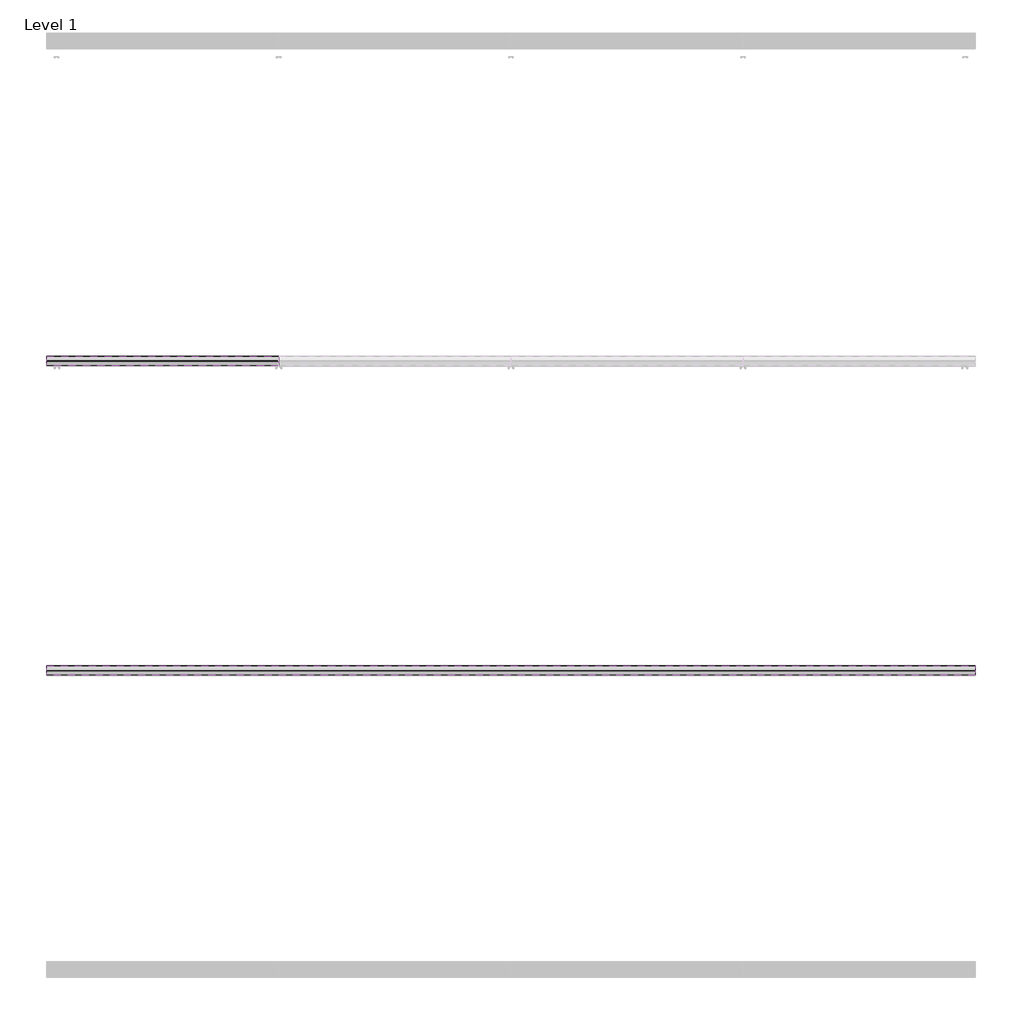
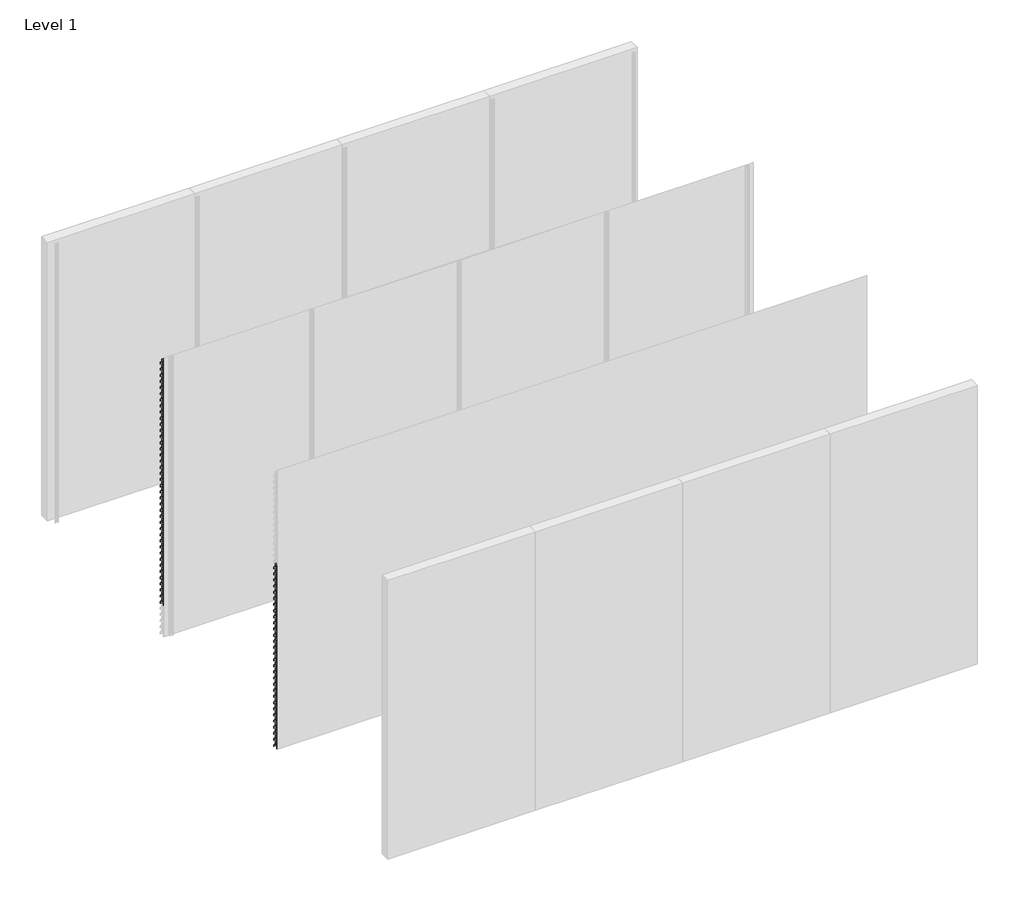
# One storey, part 29 of 35: 70 proxies.
"""IFC4 building model written with IfcOpenShell, lengths in millimetres."""

from ifc_helpers import new_model, si_unit, frame, origin, place, context, project, spatial, polyline, outline, extrude, element, save

model = new_model("IFC4")

# Units and contexts
model_context = context("Model", 3, world=origin())
ifc_project = project(units=[si_unit("LENGTHUNIT", "METRE", prefix="MILLI")], contexts=[model_context])

# Site, building, storey
site = spatial("IfcSite", under=ifc_project)
building = spatial("IfcBuilding", under=site)
storey = spatial("IfcBuildingStorey", under=building, Name="Level 1", Elevation=0.0)

# Proxies
placement = place(None, origin())
element("IfcBuildingElementProxy", 1, Name="Wall Sweeps", at=placement, inside=storey, context=model_context, shape_type="SweptSolid", body=[
    extrude(outline(polyline([(-5936.0, 2916.0), (-5936.0, 2896.0), (-5937.25, 2896.0), (-5937.25, 2915.4342979), (-5968.1138939, 2948.531772), (-5996.7, 2928.4392868), (-5996.7, 2909.6629874), (-5998.0, 2908.8506572), (-5998.0, 2929.1145472), (-5968.537525, 2949.823011), (-5968.537525, 2970.0), (-5967.1772624, 2970.0), (-5967.1772624, 2949.4335207), (-5936.0, 2916.0)])), frame((0.0, 0.0, 0.0), z_axis=(1.0, 0.0, 0.0), x_axis=(0.0, 1.0, 0.0)), (0.0, 0.0, 1.0), 1500.0),
])
element("IfcBuildingElementProxy", 2, Name="Wall Sweeps", at=placement, inside=storey, context=model_context, shape_type="SweptSolid", body=[
    extrude(outline(polyline([(-5936.0, 2850.0), (-5936.0, 2830.0), (-5937.25, 2830.0), (-5937.25, 2849.4342979), (-5968.1138939, 2882.531772), (-5996.7, 2862.4392868), (-5996.7, 2843.6629874), (-5998.0, 2842.8506572), (-5998.0, 2863.1145472), (-5968.537525, 2883.823011), (-5968.537525, 2904.0), (-5967.1772624, 2904.0), (-5967.1772624, 2883.4335207), (-5936.0, 2850.0)])), frame((0.0, 0.0, 0.0), z_axis=(1.0, 0.0, 0.0), x_axis=(0.0, 1.0, 0.0)), (0.0, 0.0, 1.0), 1500.0),
])
element("IfcBuildingElementProxy", 3, Name="Wall Sweeps", at=placement, inside=storey, context=model_context, shape_type="SweptSolid", body=[
    extrude(outline(polyline([(-5936.0, 2784.0), (-5936.0, 2764.0), (-5937.25, 2764.0), (-5937.25, 2783.4342979), (-5968.1138939, 2816.531772), (-5996.7, 2796.4392868), (-5996.7, 2777.6629874), (-5998.0, 2776.8506572), (-5998.0, 2797.1145472), (-5968.537525, 2817.823011), (-5968.537525, 2838.0), (-5967.1772624, 2838.0), (-5967.1772624, 2817.4335207), (-5936.0, 2784.0)])), frame((0.0, 0.0, 0.0), z_axis=(1.0, 0.0, 0.0), x_axis=(0.0, 1.0, 0.0)), (0.0, 0.0, 1.0), 1500.0),
])
element("IfcBuildingElementProxy", 4, Name="Wall Sweeps", at=placement, inside=storey, context=model_context, shape_type="SweptSolid", body=[
    extrude(outline(polyline([(-5936.0, 2718.0), (-5936.0, 2698.0), (-5937.25, 2698.0), (-5937.25, 2717.4342979), (-5968.1138939, 2750.531772), (-5996.7, 2730.4392868), (-5996.7, 2711.6629874), (-5998.0, 2710.8506572), (-5998.0, 2731.1145472), (-5968.537525, 2751.823011), (-5968.537525, 2772.0), (-5967.1772624, 2772.0), (-5967.1772624, 2751.4335207), (-5936.0, 2718.0)])), frame((0.0, 0.0, 0.0), z_axis=(1.0, 0.0, 0.0), x_axis=(0.0, 1.0, 0.0)), (0.0, 0.0, 1.0), 1500.0),
])
element("IfcBuildingElementProxy", 5, Name="Wall Sweeps", at=placement, inside=storey, context=model_context, shape_type="SweptSolid", body=[
    extrude(outline(polyline([(-5936.0, 2652.0), (-5936.0, 2632.0), (-5937.25, 2632.0), (-5937.25, 2651.4342979), (-5968.1138939, 2684.531772), (-5996.7, 2664.4392868), (-5996.7, 2645.6629874), (-5998.0, 2644.8506572), (-5998.0, 2665.1145472), (-5968.537525, 2685.823011), (-5968.537525, 2706.0), (-5967.1772624, 2706.0), (-5967.1772624, 2685.4335207), (-5936.0, 2652.0)])), frame((0.0, 0.0, 0.0), z_axis=(1.0, 0.0, 0.0), x_axis=(0.0, 1.0, 0.0)), (0.0, 0.0, 1.0), 1500.0),
])
element("IfcBuildingElementProxy", 6, Name="Wall Sweeps", at=placement, inside=storey, context=model_context, shape_type="SweptSolid", body=[
    extrude(outline(polyline([(-5936.0, 2586.0), (-5936.0, 2566.0), (-5937.25, 2566.0), (-5937.25, 2585.4342979), (-5968.1138939, 2618.531772), (-5996.7, 2598.4392868), (-5996.7, 2579.6629874), (-5998.0, 2578.8506572), (-5998.0, 2599.1145472), (-5968.537525, 2619.823011), (-5968.537525, 2640.0), (-5967.1772624, 2640.0), (-5967.1772624, 2619.4335207), (-5936.0, 2586.0)])), frame((0.0, 0.0, 0.0), z_axis=(1.0, 0.0, 0.0), x_axis=(0.0, 1.0, 0.0)), (0.0, 0.0, 1.0), 1500.0),
])
element("IfcBuildingElementProxy", 7, Name="Wall Sweeps", at=placement, inside=storey, context=model_context, shape_type="SweptSolid", body=[
    extrude(outline(polyline([(-5936.0, 2520.0), (-5936.0, 2500.0), (-5937.25, 2500.0), (-5937.25, 2519.4342979), (-5968.1138939, 2552.531772), (-5996.7, 2532.4392868), (-5996.7, 2513.6629874), (-5998.0, 2512.8506572), (-5998.0, 2533.1145472), (-5968.537525, 2553.823011), (-5968.537525, 2574.0), (-5967.1772624, 2574.0), (-5967.1772624, 2553.4335207), (-5936.0, 2520.0)])), frame((0.0, 0.0, 0.0), z_axis=(1.0, 0.0, 0.0), x_axis=(0.0, 1.0, 0.0)), (0.0, 0.0, 1.0), 1500.0),
])
element("IfcBuildingElementProxy", 8, Name="Wall Sweeps", at=placement, inside=storey, context=model_context, shape_type="SweptSolid", body=[
    extrude(outline(polyline([(-5936.0, 2454.0), (-5936.0, 2434.0), (-5937.25, 2434.0), (-5937.25, 2453.4342979), (-5968.1138939, 2486.531772), (-5996.7, 2466.4392868), (-5996.7, 2447.6629874), (-5998.0, 2446.8506572), (-5998.0, 2467.1145472), (-5968.537525, 2487.823011), (-5968.537525, 2508.0), (-5967.1772624, 2508.0), (-5967.1772624, 2487.4335207), (-5936.0, 2454.0)])), frame((0.0, 0.0, 0.0), z_axis=(1.0, 0.0, 0.0), x_axis=(0.0, 1.0, 0.0)), (0.0, 0.0, 1.0), 1500.0),
])
element("IfcBuildingElementProxy", 9, Name="Wall Sweeps", at=placement, inside=storey, context=model_context, shape_type="SweptSolid", body=[
    extrude(outline(polyline([(-5936.0, 2388.0), (-5936.0, 2368.0), (-5937.25, 2368.0), (-5937.25, 2387.4342979), (-5968.1138939, 2420.531772), (-5996.7, 2400.4392868), (-5996.7, 2381.6629874), (-5998.0, 2380.8506572), (-5998.0, 2401.1145472), (-5968.537525, 2421.823011), (-5968.537525, 2442.0), (-5967.1772624, 2442.0), (-5967.1772624, 2421.4335207), (-5936.0, 2388.0)])), frame((0.0, 0.0, 0.0), z_axis=(1.0, 0.0, 0.0), x_axis=(0.0, 1.0, 0.0)), (0.0, 0.0, 1.0), 1500.0),
])
element("IfcBuildingElementProxy", 10, Name="Wall Sweeps", at=placement, inside=storey, context=model_context, shape_type="SweptSolid", body=[
    extrude(outline(polyline([(-5936.0, 2322.0), (-5936.0, 2302.0), (-5937.25, 2302.0), (-5937.25, 2321.4342979), (-5968.1138939, 2354.531772), (-5996.7, 2334.4392868), (-5996.7, 2315.6629874), (-5998.0, 2314.8506572), (-5998.0, 2335.1145472), (-5968.537525, 2355.823011), (-5968.537525, 2376.0), (-5967.1772624, 2376.0), (-5967.1772624, 2355.4335207), (-5936.0, 2322.0)])), frame((0.0, 0.0, 0.0), z_axis=(1.0, 0.0, 0.0), x_axis=(0.0, 1.0, 0.0)), (0.0, 0.0, 1.0), 1500.0),
])
element("IfcBuildingElementProxy", 11, Name="Wall Sweeps", at=placement, inside=storey, context=model_context, shape_type="SweptSolid", body=[
    extrude(outline(polyline([(-5936.0, 2256.0), (-5936.0, 2236.0), (-5937.25, 2236.0), (-5937.25, 2255.4342979), (-5968.1138939, 2288.531772), (-5996.7, 2268.4392868), (-5996.7, 2249.6629874), (-5998.0, 2248.8506572), (-5998.0, 2269.1145472), (-5968.537525, 2289.823011), (-5968.537525, 2310.0), (-5967.1772624, 2310.0), (-5967.1772624, 2289.4335207), (-5936.0, 2256.0)])), frame((0.0, 0.0, 0.0), z_axis=(1.0, 0.0, 0.0), x_axis=(0.0, 1.0, 0.0)), (0.0, 0.0, 1.0), 1500.0),
])
element("IfcBuildingElementProxy", 12, Name="Wall Sweeps", at=placement, inside=storey, context=model_context, shape_type="SweptSolid", body=[
    extrude(outline(polyline([(-5936.0, 2190.0), (-5936.0, 2170.0), (-5937.25, 2170.0), (-5937.25, 2189.4342979), (-5968.1138939, 2222.531772), (-5996.7, 2202.4392868), (-5996.7, 2183.6629874), (-5998.0, 2182.8506572), (-5998.0, 2203.1145472), (-5968.537525, 2223.823011), (-5968.537525, 2244.0), (-5967.1772624, 2244.0), (-5967.1772624, 2223.4335207), (-5936.0, 2190.0)])), frame((0.0, 0.0, 0.0), z_axis=(1.0, 0.0, 0.0), x_axis=(0.0, 1.0, 0.0)), (0.0, 0.0, 1.0), 1500.0),
])
element("IfcBuildingElementProxy", 13, Name="Wall Sweeps", at=placement, inside=storey, context=model_context, shape_type="SweptSolid", body=[
    extrude(outline(polyline([(-5936.0, 2124.0), (-5936.0, 2104.0), (-5937.25, 2104.0), (-5937.25, 2123.4342979), (-5968.1138939, 2156.531772), (-5996.7, 2136.4392868), (-5996.7, 2117.6629874), (-5998.0, 2116.8506572), (-5998.0, 2137.1145472), (-5968.537525, 2157.823011), (-5968.537525, 2178.0), (-5967.1772624, 2178.0), (-5967.1772624, 2157.4335207), (-5936.0, 2124.0)])), frame((0.0, 0.0, 0.0), z_axis=(1.0, 0.0, 0.0), x_axis=(0.0, 1.0, 0.0)), (0.0, 0.0, 1.0), 1500.0),
])
element("IfcBuildingElementProxy", 14, Name="Wall Sweeps", at=placement, inside=storey, context=model_context, shape_type="SweptSolid", body=[
    extrude(outline(polyline([(-5936.0, 2058.0), (-5936.0, 2038.0), (-5937.25, 2038.0), (-5937.25, 2057.4342979), (-5968.1138939, 2090.531772), (-5996.7, 2070.4392868), (-5996.7, 2051.6629874), (-5998.0, 2050.8506572), (-5998.0, 2071.1145472), (-5968.537525, 2091.823011), (-5968.537525, 2112.0), (-5967.1772624, 2112.0), (-5967.1772624, 2091.4335207), (-5936.0, 2058.0)])), frame((0.0, 0.0, 0.0), z_axis=(1.0, 0.0, 0.0), x_axis=(0.0, 1.0, 0.0)), (0.0, 0.0, 1.0), 1500.0),
])
element("IfcBuildingElementProxy", 15, Name="Wall Sweeps", at=placement, inside=storey, context=model_context, shape_type="SweptSolid", body=[
    extrude(outline(polyline([(-5936.0, 1992.0), (-5936.0, 1972.0), (-5937.25, 1972.0), (-5937.25, 1991.4342979), (-5968.1138939, 2024.531772), (-5996.7, 2004.4392868), (-5996.7, 1985.6629874), (-5998.0, 1984.8506572), (-5998.0, 2005.1145472), (-5968.537525, 2025.823011), (-5968.537525, 2046.0), (-5967.1772624, 2046.0), (-5967.1772624, 2025.4335207), (-5936.0, 1992.0)])), frame((0.0, 0.0, 0.0), z_axis=(1.0, 0.0, 0.0), x_axis=(0.0, 1.0, 0.0)), (0.0, 0.0, 1.0), 1500.0),
])
element("IfcBuildingElementProxy", 16, Name="Wall Sweeps", at=placement, inside=storey, context=model_context, shape_type="SweptSolid", body=[
    extrude(outline(polyline([(-5936.0, 1926.0), (-5936.0, 1906.0), (-5937.25, 1906.0), (-5937.25, 1925.4342979), (-5968.1138939, 1958.531772), (-5996.7, 1938.4392868), (-5996.7, 1919.6629874), (-5998.0, 1918.8506572), (-5998.0, 1939.1145472), (-5968.537525, 1959.823011), (-5968.537525, 1980.0), (-5967.1772624, 1980.0), (-5967.1772624, 1959.4335207), (-5936.0, 1926.0)])), frame((0.0, 0.0, 0.0), z_axis=(1.0, 0.0, 0.0), x_axis=(0.0, 1.0, 0.0)), (0.0, 0.0, 1.0), 1500.0),
])
element("IfcBuildingElementProxy", 17, Name="Wall Sweeps", at=placement, inside=storey, context=model_context, shape_type="SweptSolid", body=[
    extrude(outline(polyline([(-5936.0, 1860.0), (-5936.0, 1840.0), (-5937.25, 1840.0), (-5937.25, 1859.4342979), (-5968.1138939, 1892.531772), (-5996.7, 1872.4392868), (-5996.7, 1853.6629874), (-5998.0, 1852.8506572), (-5998.0, 1873.1145472), (-5968.537525, 1893.823011), (-5968.537525, 1914.0), (-5967.1772624, 1914.0), (-5967.1772624, 1893.4335207), (-5936.0, 1860.0)])), frame((0.0, 0.0, 0.0), z_axis=(1.0, 0.0, 0.0), x_axis=(0.0, 1.0, 0.0)), (0.0, 0.0, 1.0), 1500.0),
])
element("IfcBuildingElementProxy", 18, Name="Wall Sweeps", at=placement, inside=storey, context=model_context, shape_type="SweptSolid", body=[
    extrude(outline(polyline([(-5936.0, 1794.0), (-5936.0, 1774.0), (-5937.25, 1774.0), (-5937.25, 1793.4342979), (-5968.1138939, 1826.531772), (-5996.7, 1806.4392868), (-5996.7, 1787.6629874), (-5998.0, 1786.8506572), (-5998.0, 1807.1145472), (-5968.537525, 1827.823011), (-5968.537525, 1848.0), (-5967.1772624, 1848.0), (-5967.1772624, 1827.4335207), (-5936.0, 1794.0)])), frame((0.0, 0.0, 0.0), z_axis=(1.0, 0.0, 0.0), x_axis=(0.0, 1.0, 0.0)), (0.0, 0.0, 1.0), 1500.0),
])
element("IfcBuildingElementProxy", 19, Name="Wall Sweeps", at=placement, inside=storey, context=model_context, shape_type="SweptSolid", body=[
    extrude(outline(polyline([(-5936.0, 1728.0), (-5936.0, 1708.0), (-5937.25, 1708.0), (-5937.25, 1727.4342979), (-5968.1138939, 1760.531772), (-5996.7, 1740.4392868), (-5996.7, 1721.6629874), (-5998.0, 1720.8506572), (-5998.0, 1741.1145472), (-5968.537525, 1761.823011), (-5968.537525, 1782.0), (-5967.1772624, 1782.0), (-5967.1772624, 1761.4335207), (-5936.0, 1728.0)])), frame((0.0, 0.0, 0.0), z_axis=(1.0, 0.0, 0.0), x_axis=(0.0, 1.0, 0.0)), (0.0, 0.0, 1.0), 1500.0),
])
element("IfcBuildingElementProxy", 20, Name="Wall Sweeps", at=placement, inside=storey, context=model_context, shape_type="SweptSolid", body=[
    extrude(outline(polyline([(-5936.0, 1662.0), (-5936.0, 1642.0), (-5937.25, 1642.0), (-5937.25, 1661.4342979), (-5968.1138939, 1694.531772), (-5996.7, 1674.4392868), (-5996.7, 1655.6629874), (-5998.0, 1654.8506572), (-5998.0, 1675.1145472), (-5968.537525, 1695.823011), (-5968.537525, 1716.0), (-5967.1772624, 1716.0), (-5967.1772624, 1695.4335207), (-5936.0, 1662.0)])), frame((0.0, 0.0, 0.0), z_axis=(1.0, 0.0, 0.0), x_axis=(0.0, 1.0, 0.0)), (0.0, 0.0, 1.0), 1500.0),
])
element("IfcBuildingElementProxy", 21, Name="Wall Sweeps", at=placement, inside=storey, context=model_context, shape_type="SweptSolid", body=[
    extrude(outline(polyline([(-5936.0, 1596.0), (-5936.0, 1576.0), (-5937.25, 1576.0), (-5937.25, 1595.4342979), (-5968.1138939, 1628.531772), (-5996.7, 1608.4392868), (-5996.7, 1589.6629874), (-5998.0, 1588.8506572), (-5998.0, 1609.1145472), (-5968.537525, 1629.823011), (-5968.537525, 1650.0), (-5967.1772624, 1650.0), (-5967.1772624, 1629.4335207), (-5936.0, 1596.0)])), frame((0.0, 0.0, 0.0), z_axis=(1.0, 0.0, 0.0), x_axis=(0.0, 1.0, 0.0)), (0.0, 0.0, 1.0), 1500.0),
])
element("IfcBuildingElementProxy", 22, Name="Wall Sweeps", at=placement, inside=storey, context=model_context, shape_type="SweptSolid", body=[
    extrude(outline(polyline([(-5936.0, 1530.0), (-5936.0, 1510.0), (-5937.25, 1510.0), (-5937.25, 1529.4342979), (-5968.1138939, 1562.531772), (-5996.7, 1542.4392868), (-5996.7, 1523.6629874), (-5998.0, 1522.8506572), (-5998.0, 1543.1145472), (-5968.537525, 1563.823011), (-5968.537525, 1584.0), (-5967.1772624, 1584.0), (-5967.1772624, 1563.4335207), (-5936.0, 1530.0)])), frame((0.0, 0.0, 0.0), z_axis=(1.0, 0.0, 0.0), x_axis=(0.0, 1.0, 0.0)), (0.0, 0.0, 1.0), 1500.0),
])
element("IfcBuildingElementProxy", 23, Name="Wall Sweeps", at=placement, inside=storey, context=model_context, shape_type="SweptSolid", body=[
    extrude(outline(polyline([(-5936.0, 1464.0), (-5936.0, 1444.0), (-5937.25, 1444.0), (-5937.25, 1463.4342979), (-5968.1138939, 1496.531772), (-5996.7, 1476.4392868), (-5996.7, 1457.6629874), (-5998.0, 1456.8506572), (-5998.0, 1477.1145472), (-5968.537525, 1497.823011), (-5968.537525, 1518.0), (-5967.1772624, 1518.0), (-5967.1772624, 1497.4335207), (-5936.0, 1464.0)])), frame((0.0, 0.0, 0.0), z_axis=(1.0, 0.0, 0.0), x_axis=(0.0, 1.0, 0.0)), (0.0, 0.0, 1.0), 1500.0),
])
element("IfcBuildingElementProxy", 24, Name="Wall Sweeps", at=placement, inside=storey, context=model_context, shape_type="SweptSolid", body=[
    extrude(outline(polyline([(-5936.0, 1398.0), (-5936.0, 1378.0), (-5937.25, 1378.0), (-5937.25, 1397.4342979), (-5968.1138939, 1430.531772), (-5996.7, 1410.4392868), (-5996.7, 1391.6629874), (-5998.0, 1390.8506572), (-5998.0, 1411.1145472), (-5968.537525, 1431.823011), (-5968.537525, 1452.0), (-5967.1772624, 1452.0), (-5967.1772624, 1431.4335207), (-5936.0, 1398.0)])), frame((0.0, 0.0, 0.0), z_axis=(1.0, 0.0, 0.0), x_axis=(0.0, 1.0, 0.0)), (0.0, 0.0, 1.0), 1500.0),
])
element("IfcBuildingElementProxy", 25, Name="Wall Sweeps", at=placement, inside=storey, context=model_context, shape_type="SweptSolid", body=[
    extrude(outline(polyline([(-5936.0, 1332.0), (-5936.0, 1312.0), (-5937.25, 1312.0), (-5937.25, 1331.4342979), (-5968.1138939, 1364.531772), (-5996.7, 1344.4392868), (-5996.7, 1325.6629874), (-5998.0, 1324.8506572), (-5998.0, 1345.1145472), (-5968.537525, 1365.823011), (-5968.537525, 1386.0), (-5967.1772624, 1386.0), (-5967.1772624, 1365.4335207), (-5936.0, 1332.0)])), frame((0.0, 0.0, 0.0), z_axis=(1.0, 0.0, 0.0), x_axis=(0.0, 1.0, 0.0)), (0.0, 0.0, 1.0), 1500.0),
])
element("IfcBuildingElementProxy", 26, Name="Wall Sweeps", at=placement, inside=storey, context=model_context, shape_type="SweptSolid", body=[
    extrude(outline(polyline([(-5936.0, 1266.0), (-5936.0, 1246.0), (-5937.25, 1246.0), (-5937.25, 1265.4342979), (-5968.1138939, 1298.531772), (-5996.7, 1278.4392868), (-5996.7, 1259.6629874), (-5998.0, 1258.8506572), (-5998.0, 1279.1145472), (-5968.537525, 1299.823011), (-5968.537525, 1320.0), (-5967.1772624, 1320.0), (-5967.1772624, 1299.4335207), (-5936.0, 1266.0)])), frame((0.0, 0.0, 0.0), z_axis=(1.0, 0.0, 0.0), x_axis=(0.0, 1.0, 0.0)), (0.0, 0.0, 1.0), 1500.0),
])
element("IfcBuildingElementProxy", 27, Name="Wall Sweeps", at=placement, inside=storey, context=model_context, shape_type="SweptSolid", body=[
    extrude(outline(polyline([(-5936.0, 1200.0), (-5936.0, 1180.0), (-5937.25, 1180.0), (-5937.25, 1199.4342979), (-5968.1138939, 1232.531772), (-5996.7, 1212.4392868), (-5996.7, 1193.6629874), (-5998.0, 1192.8506572), (-5998.0, 1213.1145472), (-5968.537525, 1233.823011), (-5968.537525, 1254.0), (-5967.1772624, 1254.0), (-5967.1772624, 1233.4335207), (-5936.0, 1200.0)])), frame((0.0, 0.0, 0.0), z_axis=(1.0, 0.0, 0.0), x_axis=(0.0, 1.0, 0.0)), (0.0, 0.0, 1.0), 1500.0),
])
element("IfcBuildingElementProxy", 28, Name="Wall Sweeps", at=placement, inside=storey, context=model_context, shape_type="SweptSolid", body=[
    extrude(outline(polyline([(-5936.0, 1134.0), (-5936.0, 1114.0), (-5937.25, 1114.0), (-5937.25, 1133.4342979), (-5968.1138939, 1166.531772), (-5996.7, 1146.4392868), (-5996.7, 1127.6629874), (-5998.0, 1126.8506572), (-5998.0, 1147.1145472), (-5968.537525, 1167.823011), (-5968.537525, 1188.0), (-5967.1772624, 1188.0), (-5967.1772624, 1167.4335207), (-5936.0, 1134.0)])), frame((0.0, 0.0, 0.0), z_axis=(1.0, 0.0, 0.0), x_axis=(0.0, 1.0, 0.0)), (0.0, 0.0, 1.0), 1500.0),
])
element("IfcBuildingElementProxy", 29, Name="Wall Sweeps", at=placement, inside=storey, context=model_context, shape_type="SweptSolid", body=[
    extrude(outline(polyline([(-5936.0, 1068.0), (-5936.0, 1048.0), (-5937.25, 1048.0), (-5937.25, 1067.4342979), (-5968.1138939, 1100.531772), (-5996.7, 1080.4392868), (-5996.7, 1061.6629874), (-5998.0, 1060.8506572), (-5998.0, 1081.1145472), (-5968.537525, 1101.823011), (-5968.537525, 1122.0), (-5967.1772624, 1122.0), (-5967.1772624, 1101.4335207), (-5936.0, 1068.0)])), frame((0.0, 0.0, 0.0), z_axis=(1.0, 0.0, 0.0), x_axis=(0.0, 1.0, 0.0)), (0.0, 0.0, 1.0), 1500.0),
])
element("IfcBuildingElementProxy", 30, Name="Wall Sweeps", at=placement, inside=storey, context=model_context, shape_type="SweptSolid", body=[
    extrude(outline(polyline([(-5936.0, 1002.0), (-5936.0, 982.0), (-5937.25, 982.0), (-5937.25, 1001.4342979), (-5968.1138939, 1034.531772), (-5996.7, 1014.4392868), (-5996.7, 995.6629874), (-5998.0, 994.8506572), (-5998.0, 1015.1145472), (-5968.537525, 1035.823011), (-5968.537525, 1056.0), (-5967.1772624, 1056.0), (-5967.1772624, 1035.4335207), (-5936.0, 1002.0)])), frame((0.0, 0.0, 0.0), z_axis=(1.0, 0.0, 0.0), x_axis=(0.0, 1.0, 0.0)), (0.0, 0.0, 1.0), 1500.0),
])
element("IfcBuildingElementProxy", 31, Name="Wall Sweeps", at=placement, inside=storey, context=model_context, shape_type="SweptSolid", body=[
    extrude(outline(polyline([(-5936.0, 936.0), (-5936.0, 916.0), (-5937.25, 916.0), (-5937.25, 935.4342979), (-5968.1138939, 968.531772), (-5996.7, 948.4392868), (-5996.7, 929.6629874), (-5998.0, 928.8506572), (-5998.0, 949.1145472), (-5968.537525, 969.823011), (-5968.537525, 990.0), (-5967.1772624, 990.0), (-5967.1772624, 969.4335207), (-5936.0, 936.0)])), frame((0.0, 0.0, 0.0), z_axis=(1.0, 0.0, 0.0), x_axis=(0.0, 1.0, 0.0)), (0.0, 0.0, 1.0), 1500.0),
])
element("IfcBuildingElementProxy", 32, Name="Wall Sweeps", at=placement, inside=storey, context=model_context, shape_type="SweptSolid", body=[
    extrude(outline(polyline([(-5936.0, 870.0), (-5936.0, 850.0), (-5937.25, 850.0), (-5937.25, 869.4342979), (-5968.1138939, 902.531772), (-5996.7, 882.4392868), (-5996.7, 863.6629874), (-5998.0, 862.8506572), (-5998.0, 883.1145472), (-5968.537525, 903.823011), (-5968.537525, 924.0), (-5967.1772624, 924.0), (-5967.1772624, 903.4335207), (-5936.0, 870.0)])), frame((0.0, 0.0, 0.0), z_axis=(1.0, 0.0, 0.0), x_axis=(0.0, 1.0, 0.0)), (0.0, 0.0, 1.0), 1500.0),
])
element("IfcBuildingElementProxy", 33, Name="Wall Sweeps", at=placement, inside=storey, context=model_context, shape_type="SweptSolid", body=[
    extrude(outline(polyline([(-5936.0, 804.0), (-5936.0, 784.0), (-5937.25, 784.0), (-5937.25, 803.4342979), (-5968.1138939, 836.531772), (-5996.7, 816.4392868), (-5996.7, 797.6629874), (-5998.0, 796.8506572), (-5998.0, 817.1145472), (-5968.537525, 837.823011), (-5968.537525, 858.0), (-5967.1772624, 858.0), (-5967.1772624, 837.4335207), (-5936.0, 804.0)])), frame((0.0, 0.0, 0.0), z_axis=(1.0, 0.0, 0.0), x_axis=(0.0, 1.0, 0.0)), (0.0, 0.0, 1.0), 1500.0),
])
element("IfcBuildingElementProxy", 34, Name="Wall Sweeps", at=placement, inside=storey, context=model_context, shape_type="SweptSolid", body=[
    extrude(outline(polyline([(-5936.0, 738.0), (-5936.0, 718.0), (-5937.25, 718.0), (-5937.25, 737.4342979), (-5968.1138939, 770.531772), (-5996.7, 750.4392868), (-5996.7, 731.6629874), (-5998.0, 730.8506572), (-5998.0, 751.1145472), (-5968.537525, 771.823011), (-5968.537525, 792.0), (-5967.1772624, 792.0), (-5967.1772624, 771.4335207), (-5936.0, 738.0)])), frame((0.0, 0.0, 0.0), z_axis=(1.0, 0.0, 0.0), x_axis=(0.0, 1.0, 0.0)), (0.0, 0.0, 1.0), 1500.0),
])
element("IfcBuildingElementProxy", 35, Name="Wall Sweeps", at=placement, inside=storey, context=model_context, shape_type="SweptSolid", body=[
    extrude(outline(polyline([(-5936.0, 672.0), (-5936.0, 652.0), (-5937.25, 652.0), (-5937.25, 671.4342979), (-5968.1138939, 704.531772), (-5996.7, 684.4392868), (-5996.7, 665.6629874), (-5998.0, 664.8506572), (-5998.0, 685.1145472), (-5968.537525, 705.823011), (-5968.537525, 726.0), (-5967.1772624, 726.0), (-5967.1772624, 705.4335207), (-5936.0, 672.0)])), frame((0.0, 0.0, 0.0), z_axis=(1.0, 0.0, 0.0), x_axis=(0.0, 1.0, 0.0)), (0.0, 0.0, 1.0), 1500.0),
])
element("IfcBuildingElementProxy", 36, Name="Wall Sweeps", at=placement, inside=storey, context=model_context, shape_type="SweptSolid", body=[
    extrude(outline(polyline([(-5936.0, 606.0), (-5936.0, 586.0), (-5937.25, 586.0), (-5937.25, 605.4342979), (-5968.1138939, 638.531772), (-5996.7, 618.4392868), (-5996.7, 599.6629874), (-5998.0, 598.8506572), (-5998.0, 619.1145472), (-5968.537525, 639.823011), (-5968.537525, 660.0), (-5967.1772624, 660.0), (-5967.1772624, 639.4335207), (-5936.0, 606.0)])), frame((0.0, 0.0, 0.0), z_axis=(1.0, 0.0, 0.0), x_axis=(0.0, 1.0, 0.0)), (0.0, 0.0, 1.0), 1500.0),
])
element("IfcBuildingElementProxy", 37, Name="Wall Sweeps", at=placement, inside=storey, context=model_context, shape_type="SweptSolid", body=[
    extrude(outline(polyline([(-5936.0, 540.0), (-5936.0, 520.0), (-5937.25, 520.0), (-5937.25, 539.4342979), (-5968.1138939, 572.531772), (-5996.7, 552.4392868), (-5996.7, 533.6629874), (-5998.0, 532.8506572), (-5998.0, 553.1145472), (-5968.537525, 573.823011), (-5968.537525, 594.0), (-5967.1772624, 594.0), (-5967.1772624, 573.4335207), (-5936.0, 540.0)])), frame((0.0, 0.0, 0.0), z_axis=(1.0, 0.0, 0.0), x_axis=(0.0, 1.0, 0.0)), (0.0, 0.0, 1.0), 1500.0),
])
element("IfcBuildingElementProxy", 38, Name="Wall Sweeps", at=placement, inside=storey, context=model_context, shape_type="SweptSolid", body=[
    extrude(outline(polyline([(-5936.0, 474.0), (-5936.0, 454.0), (-5937.25, 454.0), (-5937.25, 473.4342979), (-5968.1138939, 506.531772), (-5996.7, 486.4392868), (-5996.7, 467.6629874), (-5998.0, 466.8506572), (-5998.0, 487.1145472), (-5968.537525, 507.823011), (-5968.537525, 528.0), (-5967.1772624, 528.0), (-5967.1772624, 507.4335207), (-5936.0, 474.0)])), frame((0.0, 0.0, 0.0), z_axis=(1.0, 0.0, 0.0), x_axis=(0.0, 1.0, 0.0)), (0.0, 0.0, 1.0), 1500.0),
])
element("IfcBuildingElementProxy", 39, Name="Wall Sweeps", at=placement, inside=storey, context=model_context, shape_type="SweptSolid", body=[
    extrude(outline(polyline([(-5936.0, 408.0), (-5936.0, 388.0), (-5937.25, 388.0), (-5937.25, 407.4342979), (-5968.1138939, 440.531772), (-5996.7, 420.4392868), (-5996.7, 401.6629874), (-5998.0, 400.8506572), (-5998.0, 421.1145472), (-5968.537525, 441.823011), (-5968.537525, 462.0), (-5967.1772624, 462.0), (-5967.1772624, 441.4335207), (-5936.0, 408.0)])), frame((0.0, 0.0, 0.0), z_axis=(1.0, 0.0, 0.0), x_axis=(0.0, 1.0, 0.0)), (0.0, 0.0, 1.0), 1500.0),
])
element("IfcBuildingElementProxy", 40, Name="Wall Sweeps", at=placement, inside=storey, context=model_context, shape_type="SweptSolid", body=[
    extrude(outline(polyline([(-5936.0, 342.0), (-5936.0, 322.0), (-5937.25, 322.0), (-5937.25, 341.4342979), (-5968.1138939, 374.531772), (-5996.7, 354.4392868), (-5996.7, 335.6629874), (-5998.0, 334.8506572), (-5998.0, 355.1145472), (-5968.537525, 375.823011), (-5968.537525, 396.0), (-5967.1772624, 396.0), (-5967.1772624, 375.4335207), (-5936.0, 342.0)])), frame((0.0, 0.0, 0.0), z_axis=(1.0, 0.0, 0.0), x_axis=(0.0, 1.0, 0.0)), (0.0, 0.0, 1.0), 1500.0),
])
element("IfcBuildingElementProxy", 41, Name="Wall Sweeps", at=placement, inside=storey, context=model_context, shape_type="SweptSolid", body=[
    extrude(outline(polyline([(-7936.0, 1926.0), (-7936.0, 1906.0), (-7937.25, 1906.0), (-7937.25, 1925.4342979), (-7968.1138939, 1958.531772), (-7996.7, 1938.4392868), (-7996.7, 1919.6629874), (-7998.0, 1918.8506572), (-7998.0, 1939.1145472), (-7968.537525, 1959.823011), (-7968.537525, 1980.0), (-7967.1772624, 1980.0), (-7967.1772624, 1959.4335207), (-7936.0, 1926.0)])), frame((0.0, 0.0, 0.0), z_axis=(1.0, 0.0, 0.0), x_axis=(0.0, 1.0, 0.0)), (0.0, 0.0, 1.0), 6000.0),
])
element("IfcBuildingElementProxy", 42, Name="Wall Sweeps", at=placement, inside=storey, context=model_context, shape_type="SweptSolid", body=[
    extrude(outline(polyline([(-7936.0, 1860.0), (-7936.0, 1840.0), (-7937.25, 1840.0), (-7937.25, 1859.4342979), (-7968.1138939, 1892.531772), (-7996.7, 1872.4392868), (-7996.7, 1853.6629874), (-7998.0, 1852.8506572), (-7998.0, 1873.1145472), (-7968.537525, 1893.823011), (-7968.537525, 1914.0), (-7967.1772624, 1914.0), (-7967.1772624, 1893.4335207), (-7936.0, 1860.0)])), frame((0.0, 0.0, 0.0), z_axis=(1.0, 0.0, 0.0), x_axis=(0.0, 1.0, 0.0)), (0.0, 0.0, 1.0), 6000.0),
])
element("IfcBuildingElementProxy", 43, Name="Wall Sweeps", at=placement, inside=storey, context=model_context, shape_type="SweptSolid", body=[
    extrude(outline(polyline([(-7936.0, 1794.0), (-7936.0, 1774.0), (-7937.25, 1774.0), (-7937.25, 1793.4342979), (-7968.1138939, 1826.531772), (-7996.7, 1806.4392868), (-7996.7, 1787.6629874), (-7998.0, 1786.8506572), (-7998.0, 1807.1145472), (-7968.537525, 1827.823011), (-7968.537525, 1848.0), (-7967.1772624, 1848.0), (-7967.1772624, 1827.4335207), (-7936.0, 1794.0)])), frame((0.0, 0.0, 0.0), z_axis=(1.0, 0.0, 0.0), x_axis=(0.0, 1.0, 0.0)), (0.0, 0.0, 1.0), 6000.0),
])
element("IfcBuildingElementProxy", 44, Name="Wall Sweeps", at=placement, inside=storey, context=model_context, shape_type="SweptSolid", body=[
    extrude(outline(polyline([(-7936.0, 1728.0), (-7936.0, 1708.0), (-7937.25, 1708.0), (-7937.25, 1727.4342979), (-7968.1138939, 1760.531772), (-7996.7, 1740.4392868), (-7996.7, 1721.6629874), (-7998.0, 1720.8506572), (-7998.0, 1741.1145472), (-7968.537525, 1761.823011), (-7968.537525, 1782.0), (-7967.1772624, 1782.0), (-7967.1772624, 1761.4335207), (-7936.0, 1728.0)])), frame((0.0, 0.0, 0.0), z_axis=(1.0, 0.0, 0.0), x_axis=(0.0, 1.0, 0.0)), (0.0, 0.0, 1.0), 6000.0),
])
element("IfcBuildingElementProxy", 45, Name="Wall Sweeps", at=placement, inside=storey, context=model_context, shape_type="SweptSolid", body=[
    extrude(outline(polyline([(-7936.0, 1662.0), (-7936.0, 1642.0), (-7937.25, 1642.0), (-7937.25, 1661.4342979), (-7968.1138939, 1694.531772), (-7996.7, 1674.4392868), (-7996.7, 1655.6629874), (-7998.0, 1654.8506572), (-7998.0, 1675.1145472), (-7968.537525, 1695.823011), (-7968.537525, 1716.0), (-7967.1772624, 1716.0), (-7967.1772624, 1695.4335207), (-7936.0, 1662.0)])), frame((0.0, 0.0, 0.0), z_axis=(1.0, 0.0, 0.0), x_axis=(0.0, 1.0, 0.0)), (0.0, 0.0, 1.0), 6000.0),
])
element("IfcBuildingElementProxy", 46, Name="Wall Sweeps", at=placement, inside=storey, context=model_context, shape_type="SweptSolid", body=[
    extrude(outline(polyline([(-7936.0, 1596.0), (-7936.0, 1576.0), (-7937.25, 1576.0), (-7937.25, 1595.4342979), (-7968.1138939, 1628.531772), (-7996.7, 1608.4392868), (-7996.7, 1589.6629874), (-7998.0, 1588.8506572), (-7998.0, 1609.1145472), (-7968.537525, 1629.823011), (-7968.537525, 1650.0), (-7967.1772624, 1650.0), (-7967.1772624, 1629.4335207), (-7936.0, 1596.0)])), frame((0.0, 0.0, 0.0), z_axis=(1.0, 0.0, 0.0), x_axis=(0.0, 1.0, 0.0)), (0.0, 0.0, 1.0), 6000.0),
])
element("IfcBuildingElementProxy", 47, Name="Wall Sweeps", at=placement, inside=storey, context=model_context, shape_type="SweptSolid", body=[
    extrude(outline(polyline([(-7936.0, 1530.0), (-7936.0, 1510.0), (-7937.25, 1510.0), (-7937.25, 1529.4342979), (-7968.1138939, 1562.531772), (-7996.7, 1542.4392868), (-7996.7, 1523.6629874), (-7998.0, 1522.8506572), (-7998.0, 1543.1145472), (-7968.537525, 1563.823011), (-7968.537525, 1584.0), (-7967.1772624, 1584.0), (-7967.1772624, 1563.4335207), (-7936.0, 1530.0)])), frame((0.0, 0.0, 0.0), z_axis=(1.0, 0.0, 0.0), x_axis=(0.0, 1.0, 0.0)), (0.0, 0.0, 1.0), 6000.0),
])
element("IfcBuildingElementProxy", 48, Name="Wall Sweeps", at=placement, inside=storey, context=model_context, shape_type="SweptSolid", body=[
    extrude(outline(polyline([(-7936.0, 1464.0), (-7936.0, 1444.0), (-7937.25, 1444.0), (-7937.25, 1463.4342979), (-7968.1138939, 1496.531772), (-7996.7, 1476.4392868), (-7996.7, 1457.6629874), (-7998.0, 1456.8506572), (-7998.0, 1477.1145472), (-7968.537525, 1497.823011), (-7968.537525, 1518.0), (-7967.1772624, 1518.0), (-7967.1772624, 1497.4335207), (-7936.0, 1464.0)])), frame((0.0, 0.0, 0.0), z_axis=(1.0, 0.0, 0.0), x_axis=(0.0, 1.0, 0.0)), (0.0, 0.0, 1.0), 6000.0),
])
element("IfcBuildingElementProxy", 49, Name="Wall Sweeps", at=placement, inside=storey, context=model_context, shape_type="SweptSolid", body=[
    extrude(outline(polyline([(-7936.0, 1398.0), (-7936.0, 1378.0), (-7937.25, 1378.0), (-7937.25, 1397.4342979), (-7968.1138939, 1430.531772), (-7996.7, 1410.4392868), (-7996.7, 1391.6629874), (-7998.0, 1390.8506572), (-7998.0, 1411.1145472), (-7968.537525, 1431.823011), (-7968.537525, 1452.0), (-7967.1772624, 1452.0), (-7967.1772624, 1431.4335207), (-7936.0, 1398.0)])), frame((0.0, 0.0, 0.0), z_axis=(1.0, 0.0, 0.0), x_axis=(0.0, 1.0, 0.0)), (0.0, 0.0, 1.0), 6000.0),
])
element("IfcBuildingElementProxy", 50, Name="Wall Sweeps", at=placement, inside=storey, context=model_context, shape_type="SweptSolid", body=[
    extrude(outline(polyline([(-7936.0, 1332.0), (-7936.0, 1312.0), (-7937.25, 1312.0), (-7937.25, 1331.4342979), (-7968.1138939, 1364.531772), (-7996.7, 1344.4392868), (-7996.7, 1325.6629874), (-7998.0, 1324.8506572), (-7998.0, 1345.1145472), (-7968.537525, 1365.823011), (-7968.537525, 1386.0), (-7967.1772624, 1386.0), (-7967.1772624, 1365.4335207), (-7936.0, 1332.0)])), frame((0.0, 0.0, 0.0), z_axis=(1.0, 0.0, 0.0), x_axis=(0.0, 1.0, 0.0)), (0.0, 0.0, 1.0), 6000.0),
])
element("IfcBuildingElementProxy", 51, Name="Wall Sweeps", at=placement, inside=storey, context=model_context, shape_type="SweptSolid", body=[
    extrude(outline(polyline([(-7936.0, 1266.0), (-7936.0, 1246.0), (-7937.25, 1246.0), (-7937.25, 1265.4342979), (-7968.1138939, 1298.531772), (-7996.7, 1278.4392868), (-7996.7, 1259.6629874), (-7998.0, 1258.8506572), (-7998.0, 1279.1145472), (-7968.537525, 1299.823011), (-7968.537525, 1320.0), (-7967.1772624, 1320.0), (-7967.1772624, 1299.4335207), (-7936.0, 1266.0)])), frame((0.0, 0.0, 0.0), z_axis=(1.0, 0.0, 0.0), x_axis=(0.0, 1.0, 0.0)), (0.0, 0.0, 1.0), 6000.0),
])
element("IfcBuildingElementProxy", 52, Name="Wall Sweeps", at=placement, inside=storey, context=model_context, shape_type="SweptSolid", body=[
    extrude(outline(polyline([(-7936.0, 1200.0), (-7936.0, 1180.0), (-7937.25, 1180.0), (-7937.25, 1199.4342979), (-7968.1138939, 1232.531772), (-7996.7, 1212.4392868), (-7996.7, 1193.6629874), (-7998.0, 1192.8506572), (-7998.0, 1213.1145472), (-7968.537525, 1233.823011), (-7968.537525, 1254.0), (-7967.1772624, 1254.0), (-7967.1772624, 1233.4335207), (-7936.0, 1200.0)])), frame((0.0, 0.0, 0.0), z_axis=(1.0, 0.0, 0.0), x_axis=(0.0, 1.0, 0.0)), (0.0, 0.0, 1.0), 6000.0),
])
element("IfcBuildingElementProxy", 53, Name="Wall Sweeps", at=placement, inside=storey, context=model_context, shape_type="SweptSolid", body=[
    extrude(outline(polyline([(-7936.0, 1134.0), (-7936.0, 1114.0), (-7937.25, 1114.0), (-7937.25, 1133.4342979), (-7968.1138939, 1166.531772), (-7996.7, 1146.4392868), (-7996.7, 1127.6629874), (-7998.0, 1126.8506572), (-7998.0, 1147.1145472), (-7968.537525, 1167.823011), (-7968.537525, 1188.0), (-7967.1772624, 1188.0), (-7967.1772624, 1167.4335207), (-7936.0, 1134.0)])), frame((0.0, 0.0, 0.0), z_axis=(1.0, 0.0, 0.0), x_axis=(0.0, 1.0, 0.0)), (0.0, 0.0, 1.0), 6000.0),
])
element("IfcBuildingElementProxy", 54, Name="Wall Sweeps", at=placement, inside=storey, context=model_context, shape_type="SweptSolid", body=[
    extrude(outline(polyline([(-7936.0, 1068.0), (-7936.0, 1048.0), (-7937.25, 1048.0), (-7937.25, 1067.4342979), (-7968.1138939, 1100.531772), (-7996.7, 1080.4392868), (-7996.7, 1061.6629874), (-7998.0, 1060.8506572), (-7998.0, 1081.1145472), (-7968.537525, 1101.823011), (-7968.537525, 1122.0), (-7967.1772624, 1122.0), (-7967.1772624, 1101.4335207), (-7936.0, 1068.0)])), frame((0.0, 0.0, 0.0), z_axis=(1.0, 0.0, 0.0), x_axis=(0.0, 1.0, 0.0)), (0.0, 0.0, 1.0), 6000.0),
])
element("IfcBuildingElementProxy", 55, Name="Wall Sweeps", at=placement, inside=storey, context=model_context, shape_type="SweptSolid", body=[
    extrude(outline(polyline([(-7936.0, 1002.0), (-7936.0, 982.0), (-7937.25, 982.0), (-7937.25, 1001.4342979), (-7968.1138939, 1034.531772), (-7996.7, 1014.4392868), (-7996.7, 995.6629874), (-7998.0, 994.8506572), (-7998.0, 1015.1145472), (-7968.537525, 1035.823011), (-7968.537525, 1056.0), (-7967.1772624, 1056.0), (-7967.1772624, 1035.4335207), (-7936.0, 1002.0)])), frame((0.0, 0.0, 0.0), z_axis=(1.0, 0.0, 0.0), x_axis=(0.0, 1.0, 0.0)), (0.0, 0.0, 1.0), 6000.0),
])
element("IfcBuildingElementProxy", 56, Name="Wall Sweeps", at=placement, inside=storey, context=model_context, shape_type="SweptSolid", body=[
    extrude(outline(polyline([(-7936.0, 936.0), (-7936.0, 916.0), (-7937.25, 916.0), (-7937.25, 935.4342979), (-7968.1138939, 968.531772), (-7996.7, 948.4392868), (-7996.7, 929.6629874), (-7998.0, 928.8506572), (-7998.0, 949.1145472), (-7968.537525, 969.823011), (-7968.537525, 990.0), (-7967.1772624, 990.0), (-7967.1772624, 969.4335207), (-7936.0, 936.0)])), frame((0.0, 0.0, 0.0), z_axis=(1.0, 0.0, 0.0), x_axis=(0.0, 1.0, 0.0)), (0.0, 0.0, 1.0), 6000.0),
])
element("IfcBuildingElementProxy", 57, Name="Wall Sweeps", at=placement, inside=storey, context=model_context, shape_type="SweptSolid", body=[
    extrude(outline(polyline([(-7936.0, 870.0), (-7936.0, 850.0), (-7937.25, 850.0), (-7937.25, 869.4342979), (-7968.1138939, 902.531772), (-7996.7, 882.4392868), (-7996.7, 863.6629874), (-7998.0, 862.8506572), (-7998.0, 883.1145472), (-7968.537525, 903.823011), (-7968.537525, 924.0), (-7967.1772624, 924.0), (-7967.1772624, 903.4335207), (-7936.0, 870.0)])), frame((0.0, 0.0, 0.0), z_axis=(1.0, 0.0, 0.0), x_axis=(0.0, 1.0, 0.0)), (0.0, 0.0, 1.0), 6000.0),
])
element("IfcBuildingElementProxy", 58, Name="Wall Sweeps", at=placement, inside=storey, context=model_context, shape_type="SweptSolid", body=[
    extrude(outline(polyline([(-7936.0, 804.0), (-7936.0, 784.0), (-7937.25, 784.0), (-7937.25, 803.4342979), (-7968.1138939, 836.531772), (-7996.7, 816.4392868), (-7996.7, 797.6629874), (-7998.0, 796.8506572), (-7998.0, 817.1145472), (-7968.537525, 837.823011), (-7968.537525, 858.0), (-7967.1772624, 858.0), (-7967.1772624, 837.4335207), (-7936.0, 804.0)])), frame((0.0, 0.0, 0.0), z_axis=(1.0, 0.0, 0.0), x_axis=(0.0, 1.0, 0.0)), (0.0, 0.0, 1.0), 6000.0),
])
element("IfcBuildingElementProxy", 59, Name="Wall Sweeps", at=placement, inside=storey, context=model_context, shape_type="SweptSolid", body=[
    extrude(outline(polyline([(-7936.0, 738.0), (-7936.0, 718.0), (-7937.25, 718.0), (-7937.25, 737.4342979), (-7968.1138939, 770.531772), (-7996.7, 750.4392868), (-7996.7, 731.6629874), (-7998.0, 730.8506572), (-7998.0, 751.1145472), (-7968.537525, 771.823011), (-7968.537525, 792.0), (-7967.1772624, 792.0), (-7967.1772624, 771.4335207), (-7936.0, 738.0)])), frame((0.0, 0.0, 0.0), z_axis=(1.0, 0.0, 0.0), x_axis=(0.0, 1.0, 0.0)), (0.0, 0.0, 1.0), 6000.0),
])
element("IfcBuildingElementProxy", 60, Name="Wall Sweeps", at=placement, inside=storey, context=model_context, shape_type="SweptSolid", body=[
    extrude(outline(polyline([(-7936.0, 672.0), (-7936.0, 652.0), (-7937.25, 652.0), (-7937.25, 671.4342979), (-7968.1138939, 704.531772), (-7996.7, 684.4392868), (-7996.7, 665.6629874), (-7998.0, 664.8506572), (-7998.0, 685.1145472), (-7968.537525, 705.823011), (-7968.537525, 726.0), (-7967.1772624, 726.0), (-7967.1772624, 705.4335207), (-7936.0, 672.0)])), frame((0.0, 0.0, 0.0), z_axis=(1.0, 0.0, 0.0), x_axis=(0.0, 1.0, 0.0)), (0.0, 0.0, 1.0), 6000.0),
])
element("IfcBuildingElementProxy", 61, Name="Wall Sweeps", at=placement, inside=storey, context=model_context, shape_type="SweptSolid", body=[
    extrude(outline(polyline([(-7936.0, 606.0), (-7936.0, 586.0), (-7937.25, 586.0), (-7937.25, 605.4342979), (-7968.1138939, 638.531772), (-7996.7, 618.4392868), (-7996.7, 599.6629874), (-7998.0, 598.8506572), (-7998.0, 619.1145472), (-7968.537525, 639.823011), (-7968.537525, 660.0), (-7967.1772624, 660.0), (-7967.1772624, 639.4335207), (-7936.0, 606.0)])), frame((0.0, 0.0, 0.0), z_axis=(1.0, 0.0, 0.0), x_axis=(0.0, 1.0, 0.0)), (0.0, 0.0, 1.0), 6000.0),
])
element("IfcBuildingElementProxy", 62, Name="Wall Sweeps", at=placement, inside=storey, context=model_context, shape_type="SweptSolid", body=[
    extrude(outline(polyline([(-7936.0, 540.0), (-7936.0, 520.0), (-7937.25, 520.0), (-7937.25, 539.4342979), (-7968.1138939, 572.531772), (-7996.7, 552.4392868), (-7996.7, 533.6629874), (-7998.0, 532.8506572), (-7998.0, 553.1145472), (-7968.537525, 573.823011), (-7968.537525, 594.0), (-7967.1772624, 594.0), (-7967.1772624, 573.4335207), (-7936.0, 540.0)])), frame((0.0, 0.0, 0.0), z_axis=(1.0, 0.0, 0.0), x_axis=(0.0, 1.0, 0.0)), (0.0, 0.0, 1.0), 6000.0),
])
element("IfcBuildingElementProxy", 63, Name="Wall Sweeps", at=placement, inside=storey, context=model_context, shape_type="SweptSolid", body=[
    extrude(outline(polyline([(-7936.0, 474.0), (-7936.0, 454.0), (-7937.25, 454.0), (-7937.25, 473.4342979), (-7968.1138939, 506.531772), (-7996.7, 486.4392868), (-7996.7, 467.6629874), (-7998.0, 466.8506572), (-7998.0, 487.1145472), (-7968.537525, 507.823011), (-7968.537525, 528.0), (-7967.1772624, 528.0), (-7967.1772624, 507.4335207), (-7936.0, 474.0)])), frame((0.0, 0.0, 0.0), z_axis=(1.0, 0.0, 0.0), x_axis=(0.0, 1.0, 0.0)), (0.0, 0.0, 1.0), 6000.0),
])
element("IfcBuildingElementProxy", 64, Name="Wall Sweeps", at=placement, inside=storey, context=model_context, shape_type="SweptSolid", body=[
    extrude(outline(polyline([(-7936.0, 408.0), (-7936.0, 388.0), (-7937.25, 388.0), (-7937.25, 407.4342979), (-7968.1138939, 440.531772), (-7996.7, 420.4392868), (-7996.7, 401.6629874), (-7998.0, 400.8506572), (-7998.0, 421.1145472), (-7968.537525, 441.823011), (-7968.537525, 462.0), (-7967.1772624, 462.0), (-7967.1772624, 441.4335207), (-7936.0, 408.0)])), frame((0.0, 0.0, 0.0), z_axis=(1.0, 0.0, 0.0), x_axis=(0.0, 1.0, 0.0)), (0.0, 0.0, 1.0), 6000.0),
])
element("IfcBuildingElementProxy", 65, Name="Wall Sweeps", at=placement, inside=storey, context=model_context, shape_type="SweptSolid", body=[
    extrude(outline(polyline([(-7936.0, 342.0), (-7936.0, 322.0), (-7937.25, 322.0), (-7937.25, 341.4342979), (-7968.1138939, 374.531772), (-7996.7, 354.4392868), (-7996.7, 335.6629874), (-7998.0, 334.8506572), (-7998.0, 355.1145472), (-7968.537525, 375.823011), (-7968.537525, 396.0), (-7967.1772624, 396.0), (-7967.1772624, 375.4335207), (-7936.0, 342.0)])), frame((0.0, 0.0, 0.0), z_axis=(1.0, 0.0, 0.0), x_axis=(0.0, 1.0, 0.0)), (0.0, 0.0, 1.0), 6000.0),
])
element("IfcBuildingElementProxy", 66, Name="Wall Sweeps", at=placement, inside=storey, context=model_context, shape_type="SweptSolid", body=[
    extrude(outline(polyline([(-7936.0, 276.0), (-7936.0, 256.0), (-7937.25, 256.0), (-7937.25, 275.4342979), (-7968.1138939, 308.531772), (-7996.7, 288.4392868), (-7996.7, 269.6629874), (-7998.0, 268.8506572), (-7998.0, 289.1145472), (-7968.537525, 309.823011), (-7968.537525, 330.0), (-7967.1772624, 330.0), (-7967.1772624, 309.4335207), (-7936.0, 276.0)])), frame((0.0, 0.0, 0.0), z_axis=(1.0, 0.0, 0.0), x_axis=(0.0, 1.0, 0.0)), (0.0, 0.0, 1.0), 6000.0),
])
element("IfcBuildingElementProxy", 67, Name="Wall Sweeps", at=placement, inside=storey, context=model_context, shape_type="SweptSolid", body=[
    extrude(outline(polyline([(-7936.0, 210.0), (-7936.0, 190.0), (-7937.25, 190.0), (-7937.25, 209.4342979), (-7968.1138939, 242.531772), (-7996.7, 222.4392868), (-7996.7, 203.6629874), (-7998.0, 202.8506572), (-7998.0, 223.1145472), (-7968.537525, 243.823011), (-7968.537525, 264.0), (-7967.1772624, 264.0), (-7967.1772624, 243.4335207), (-7936.0, 210.0)])), frame((0.0, 0.0, 0.0), z_axis=(1.0, 0.0, 0.0), x_axis=(0.0, 1.0, 0.0)), (0.0, 0.0, 1.0), 6000.0),
])
element("IfcBuildingElementProxy", 68, Name="Wall Sweeps", at=placement, inside=storey, context=model_context, shape_type="SweptSolid", body=[
    extrude(outline(polyline([(-7936.0, 144.0), (-7936.0, 124.0), (-7937.25, 124.0), (-7937.25, 143.4342979), (-7968.1138939, 176.531772), (-7996.7, 156.4392868), (-7996.7, 137.6629874), (-7998.0, 136.8506572), (-7998.0, 157.1145472), (-7968.537525, 177.823011), (-7968.537525, 198.0), (-7967.1772624, 198.0), (-7967.1772624, 177.4335207), (-7936.0, 144.0)])), frame((0.0, 0.0, 0.0), z_axis=(1.0, 0.0, 0.0), x_axis=(0.0, 1.0, 0.0)), (0.0, 0.0, 1.0), 6000.0),
])
element("IfcBuildingElementProxy", 69, Name="Wall Sweeps", at=placement, inside=storey, context=model_context, shape_type="SweptSolid", body=[
    extrude(outline(polyline([(-7936.0, 78.0), (-7936.0, 58.0), (-7937.25, 58.0), (-7937.25, 77.4342979), (-7968.1138939, 110.531772), (-7996.7, 90.4392868), (-7996.7, 71.6629874), (-7998.0, 70.8506572), (-7998.0, 91.1145472), (-7968.537525, 111.823011), (-7968.537525, 132.0), (-7967.1772624, 132.0), (-7967.1772624, 111.4335207), (-7936.0, 78.0)])), frame((0.0, 0.0, 0.0), z_axis=(1.0, 0.0, 0.0), x_axis=(0.0, 1.0, 0.0)), (0.0, 0.0, 1.0), 6000.0),
])
element("IfcBuildingElementProxy", 70, Name="Wall Sweeps", at=placement, inside=storey, context=model_context, shape_type="SweptSolid", body=[
    extrude(outline(polyline([(-7936.0, 12.0), (-7936.0, -8.0), (-7937.25, -8.0), (-7937.25, 11.4342979), (-7968.1138939, 44.531772), (-7996.7, 24.4392868), (-7996.7, 5.6629874), (-7998.0, 4.8506572), (-7998.0, 25.1145472), (-7968.537525, 45.823011), (-7968.537525, 66.0), (-7967.1772624, 66.0), (-7967.1772624, 45.4335207), (-7936.0, 12.0)])), frame((0.0, 0.0, 0.0), z_axis=(1.0, 0.0, 0.0), x_axis=(0.0, 1.0, 0.0)), (0.0, 0.0, 1.0), 6000.0),
])

save(model, "model.ifc")
